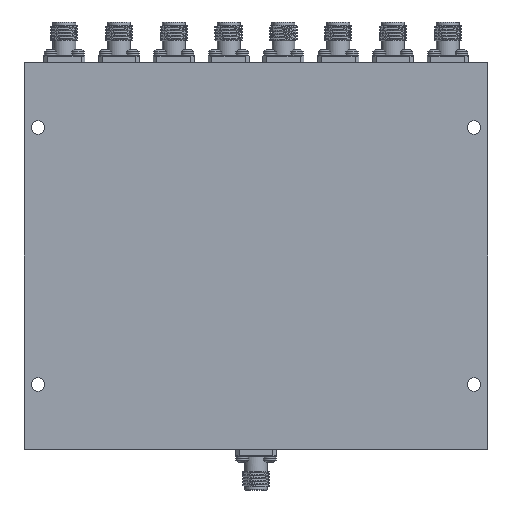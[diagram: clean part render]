
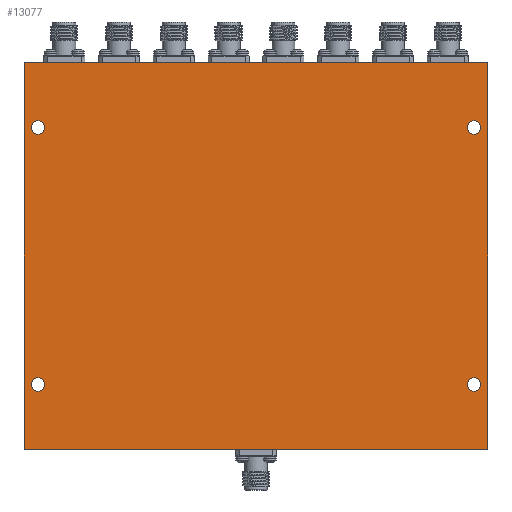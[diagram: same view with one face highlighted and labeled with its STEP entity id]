
A CAD part, front view. The second image highlights one B-rep face of the part: STEP entity #13077.
In plain terms, the highlighted planar face has unit normal (0, -1, 0).
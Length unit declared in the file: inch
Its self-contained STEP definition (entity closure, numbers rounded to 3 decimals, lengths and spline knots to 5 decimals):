
#847 = CARTESIAN_POINT ( 'NONE',  ( -1.99, -0.197, 1.1735 ) ) ;
#1274 = ORIENTED_EDGE ( 'NONE', *, *, #113899, .F. ) ;
#2741 = DIRECTION ( 'NONE',  ( 0., 0., 1. ) ) ;
#6113 = CARTESIAN_POINT ( 'NONE',  ( 1.99, -0.197, -1.111 ) ) ;
#6515 = DIRECTION ( 'NONE',  ( 0., 0., 1. ) ) ;
#8778 = CARTESIAN_POINT ( 'NONE',  ( 2.115, -0.197, -1.764 ) ) ;
#8907 = FACE_BOUND ( 'NONE', #124249, .T. ) ;
#10881 = EDGE_LOOP ( 'NONE', ( #135365 ) ) ;
#13077 = ADVANCED_FACE ( 'NONE', ( #117658, #129078, #8907, #129782, #31776 ), #31074, .F. ) ;
#13856 = EDGE_CURVE ( 'NONE', #94119, #94119, #76399, .T. ) ;
#14202 = DIRECTION ( 'NONE',  ( 0., 1., 0. ) ) ;
#14302 = EDGE_CURVE ( 'NONE', #127029, #127029, #126684, .T. ) ;
#18012 = CARTESIAN_POINT ( 'NONE',  ( 1.99, -0.197, 1.1735 ) ) ;
#19074 = CARTESIAN_POINT ( 'NONE',  ( -2.115, -0.197, 1.764 ) ) ;
#29038 = CARTESIAN_POINT ( 'NONE',  ( -1.99, -0.197, 1.236 ) ) ;
#31074 = PLANE ( 'NONE',  #59767 ) ;
#31776 = FACE_OUTER_BOUND ( 'NONE', #45229, .T. ) ;
#32371 = CARTESIAN_POINT ( 'NONE',  ( -2.115, -0.197, -1.764 ) ) ;
#35272 = CARTESIAN_POINT ( 'NONE',  ( 0., -0.197, 0. ) ) ;
#42980 = LINE ( 'NONE', #32371, #120517 ) ;
#44327 = AXIS2_PLACEMENT_3D ( 'NONE', #847, #120282, #131749 ) ;
#45229 = EDGE_LOOP ( 'NONE', ( #1274, #76983, #91238, #74722 ) ) ;
#46024 = AXIS2_PLACEMENT_3D ( 'NONE', #18012, #72396, #6515 ) ;
#46862 = VECTOR ( 'NONE', #51809, 39.37008 ) ;
#51069 = DIRECTION ( 'NONE',  ( 0., 1., 0. ) ) ;
#51809 = DIRECTION ( 'NONE',  ( 1., 0., 0. ) ) ;
#53852 = CARTESIAN_POINT ( 'NONE',  ( 2.115, -0.197, -1.764 ) ) ;
#59767 = AXIS2_PLACEMENT_3D ( 'NONE', #35272, #76900, #131187 ) ;
#63386 = VERTEX_POINT ( 'NONE', #8778 ) ;
#66250 = VERTEX_POINT ( 'NONE', #85661 ) ;
#70963 = CARTESIAN_POINT ( 'NONE',  ( 2.115, -0.197, 1.764 ) ) ;
#71415 = VERTEX_POINT ( 'NONE', #114954 ) ;
#71931 = CARTESIAN_POINT ( 'NONE',  ( -1.99, -0.197, -1.1735 ) ) ;
#72396 = DIRECTION ( 'NONE',  ( 0., 1., 0. ) ) ;
#74722 = ORIENTED_EDGE ( 'NONE', *, *, #139406, .F. ) ;
#76399 = CIRCLE ( 'NONE', #87785, 0.0625 ) ;
#76900 = DIRECTION ( 'NONE',  ( 0., 1., 0. ) ) ;
#76983 = ORIENTED_EDGE ( 'NONE', *, *, #137028, .F. ) ;
#77232 = CARTESIAN_POINT ( 'NONE',  ( -2.115, -0.197, -1.764 ) ) ;
#85661 = CARTESIAN_POINT ( 'NONE',  ( 1.99, -0.197, 1.236 ) ) ;
#85832 = VERTEX_POINT ( 'NONE', #88212 ) ;
#87583 = ORIENTED_EDGE ( 'NONE', *, *, #13856, .T. ) ;
#87785 = AXIS2_PLACEMENT_3D ( 'NONE', #135884, #14202, #2741 ) ;
#88212 = CARTESIAN_POINT ( 'NONE',  ( -2.115, -0.197, -1.764 ) ) ;
#89539 = CIRCLE ( 'NONE', #46024, 0.0625 ) ;
#91238 = ORIENTED_EDGE ( 'NONE', *, *, #106608, .F. ) ;
#94119 = VERTEX_POINT ( 'NONE', #6113 ) ;
#98859 = VECTOR ( 'NONE', #132627, 39.37008 ) ;
#98944 = LINE ( 'NONE', #53852, #98859 ) ;
#100121 = CIRCLE ( 'NONE', #132146, 0.0625 ) ;
#100603 = EDGE_LOOP ( 'NONE', ( #87583 ) ) ;
#102135 = CARTESIAN_POINT ( 'NONE',  ( -2.115, -0.197, 1.764 ) ) ;
#103537 = DIRECTION ( 'NONE',  ( 0., 0., 1. ) ) ;
#106608 = EDGE_CURVE ( 'NONE', #140717, #63386, #98944, .T. ) ;
#113899 = EDGE_CURVE ( 'NONE', #85832, #138733, #122179, .T. ) ;
#114954 = CARTESIAN_POINT ( 'NONE',  ( -1.99, -0.197, -1.111 ) ) ;
#115470 = DIRECTION ( 'NONE',  ( 0., 0., 1. ) ) ;
#116988 = LINE ( 'NONE', #19074, #46862 ) ;
#117658 = FACE_BOUND ( 'NONE', #140343, .T. ) ;
#119636 = DIRECTION ( 'NONE',  ( -1., 0., 0. ) ) ;
#119722 = EDGE_CURVE ( 'NONE', #71415, #71415, #100121, .T. ) ;
#120282 = DIRECTION ( 'NONE',  ( 0., 1., 0. ) ) ;
#120517 = VECTOR ( 'NONE', #119636, 39.37008 ) ;
#122179 = LINE ( 'NONE', #77232, #125926 ) ;
#124249 = EDGE_LOOP ( 'NONE', ( #129823 ) ) ;
#125363 = ORIENTED_EDGE ( 'NONE', *, *, #119722, .T. ) ;
#125926 = VECTOR ( 'NONE', #103537, 39.37008 ) ;
#126684 = CIRCLE ( 'NONE', #44327, 0.0625 ) ;
#127029 = VERTEX_POINT ( 'NONE', #29038 ) ;
#129078 = FACE_BOUND ( 'NONE', #100603, .T. ) ;
#129782 = FACE_BOUND ( 'NONE', #10881, .T. ) ;
#129823 = ORIENTED_EDGE ( 'NONE', *, *, #131500, .T. ) ;
#131187 = DIRECTION ( 'NONE',  ( 0., 0., 1. ) ) ;
#131500 = EDGE_CURVE ( 'NONE', #66250, #66250, #89539, .T. ) ;
#131749 = DIRECTION ( 'NONE',  ( 0., 0., 1. ) ) ;
#132146 = AXIS2_PLACEMENT_3D ( 'NONE', #71931, #51069, #115470 ) ;
#132627 = DIRECTION ( 'NONE',  ( 0., 0., -1. ) ) ;
#135365 = ORIENTED_EDGE ( 'NONE', *, *, #14302, .T. ) ;
#135884 = CARTESIAN_POINT ( 'NONE',  ( 1.99, -0.197, -1.1735 ) ) ;
#137028 = EDGE_CURVE ( 'NONE', #63386, #85832, #42980, .T. ) ;
#138733 = VERTEX_POINT ( 'NONE', #102135 ) ;
#139406 = EDGE_CURVE ( 'NONE', #138733, #140717, #116988, .T. ) ;
#140343 = EDGE_LOOP ( 'NONE', ( #125363 ) ) ;
#140717 = VERTEX_POINT ( 'NONE', #70963 ) ;
